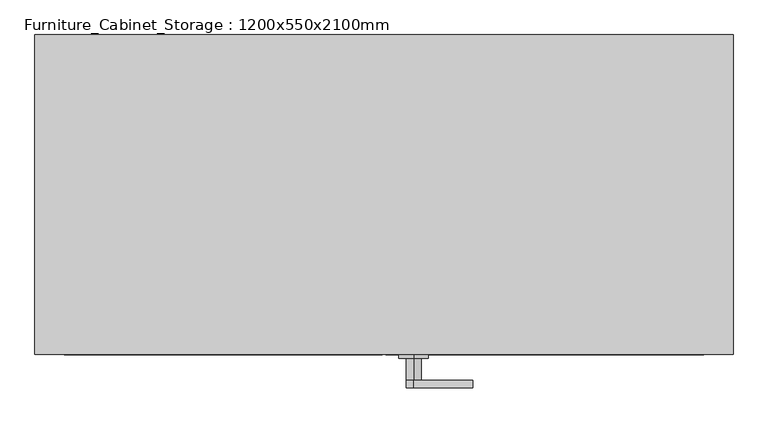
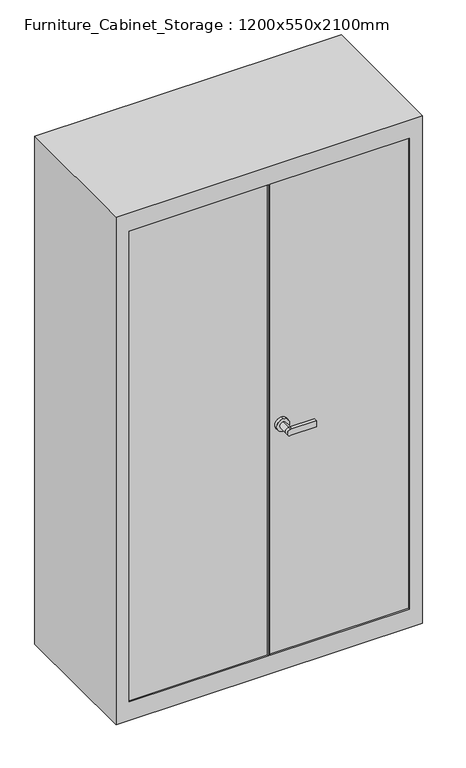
"""IFC4 building model written with IfcOpenShell, lengths in millimetres: furniture geometry, Furniture_Cabinet_Storage : 1200x550x2100mm."""

from ifc_helpers import new_model, si_unit, point, frame, frame_2d, origin, place, context, project, spatial, polyline, circle_curve, trimmed, segment, composite_curve, outline, extrude, faceted_brep, source, transform, mapped, element, save


def furniture_cabinet_storage_1200x550x2100mm_1155e696(model_context):
    return source(origin(), model_context, "Body", "SolidModel", [
        extrude(outline(composite_curve([segment(polyline([(1028.7, 152.5427411), (1028.7, 50.9427411)]), True, "CONTINUOUS"), segment(trimmed(circle_curve(frame_2d((1016.0, 50.9427411)), 12.7), [point((1028.7, 50.9427411))], [point((1003.3, 50.9427411))], False, "CARTESIAN"), True, "CONTINUOUS"), segment(polyline([(1003.3, 50.9427411), (1003.3, 152.5427411), (1028.7, 152.5427411)]), True, "CONTINUOUS")], self_intersect=False)), frame((0.0, -332.15, 0.0), z_axis=(0.0, 1.0, 0.0), x_axis=(0.0, 0.0, 1.0)), (0.0, 0.0, 1.0), 12.7),
        extrude(outline(composite_curve([segment(trimmed(circle_curve(frame_2d((1016.0, 50.9427411)), 12.7), [point((1028.7, 50.9427411))], [point((1003.3, 50.9427411))], False, "CARTESIAN"), True, "CONTINUOUS"), segment(trimmed(circle_curve(frame_2d((1016.0, 50.9427411)), 12.7), [point((1003.3, 50.9427411))], [point((1028.7, 50.9427411))], False, "CARTESIAN"), True, "CONTINUOUS")], self_intersect=False)), frame((0.0, -319.45, 0.0), z_axis=(0.0, 1.0, 0.0), x_axis=(0.0, 0.0, 1.0)), (0.0, 0.0, 1.0), 38.1),
        extrude(outline(composite_curve([segment(trimmed(circle_curve(frame_2d((1016.0, 50.9427411)), 25.4), [point((1041.4, 50.9427411))], [point((990.6, 50.9427411))], False, "CARTESIAN"), True, "CONTINUOUS"), segment(trimmed(circle_curve(frame_2d((1016.0, 50.9427411)), 25.4), [point((990.6, 50.9427411))], [point((1041.4, 50.9427411))], False, "CARTESIAN"), True, "CONTINUOUS")], self_intersect=False)), frame((0.0, -281.35, 0.0), z_axis=(0.0, 1.0, 0.0), x_axis=(0.0, 0.0, 1.0)), (0.0, 0.0, 1.0), 12.7),
        faceted_brep([(600.0, -275.0, 2100.0), (600.0, 275.0, 2100.0), (-600.0, 275.0, 2100.0), (-600.0, -275.0, 2100.0), (600.0, -275.0, 0.0), (-600.0, -275.0, 0.0), (-600.0, 275.0, 0.0), (600.0, 275.0, 0.0), (549.2, -275.0, 2023.8), (549.2, -275.0, 76.2), (3.175, -275.0, 76.2), (3.175, -275.0, 2023.8), (-549.2, -275.0, 2023.8), (-3.175, -275.0, 2023.8), (-3.175, -275.0, 76.2), (-549.2, -275.0, 76.2), (549.2, -268.65, 76.2), (549.2, -268.65, 2023.8), (3.175, -268.65, 2023.8), (3.175, -268.65, 76.2), (-3.175, -268.65, 2023.8), (-549.2, -268.65, 2023.8), (-549.2, -268.65, 76.2), (-3.175, -268.65, 76.2)], [[[0, 1, 2, 3]], [[4, 5, 6, 7]], [[1, 0, 4, 7]], [[2, 1, 7, 6]], [[3, 2, 6, 5]], [[0, 3, 5, 4], [8, 9, 10, 11], [12, 13, 14, 15]], [[16, 17, 18, 19]], [[17, 16, 9, 8]], [[18, 17, 8, 11]], [[19, 18, 11, 10]], [[16, 19, 10, 9]], [[20, 21, 22, 23]], [[21, 20, 13, 12]], [[22, 21, 12, 15]], [[23, 22, 15, 14]], [[20, 23, 14, 13]]]),
    ])


if __name__ == "__main__":
    model = new_model("IFC4")
    model_context = context("Model", 3, world=origin())
    ifc_project = project(units=[si_unit("LENGTHUNIT", "METRE", prefix="MILLI")], contexts=[model_context])
    site = spatial("IfcSite", under=ifc_project)
    building = spatial("IfcBuilding", under=site)
    placement = place(None, origin())
    furniture_cabinet_storage_1200x550x2100mm_shape = furniture_cabinet_storage_1200x550x2100mm_1155e696(model_context)
    element("IfcFurniture", 1, ObjectType="Furniture_Cabinet_Storage : 1200x550x2100mm", at=placement, inside=building, context=model_context, shape_type="MappedRepresentation", body=[
        mapped(furniture_cabinet_storage_1200x550x2100mm_shape, transform((0.0, 0.0, 0.0), x_axis=(1.0, 0.0, 0.0), y_axis=(0.0, 1.0, 0.0), z_axis=(0.0, 0.0, 1.0))),
    ])
    save(model, "model.ifc")
